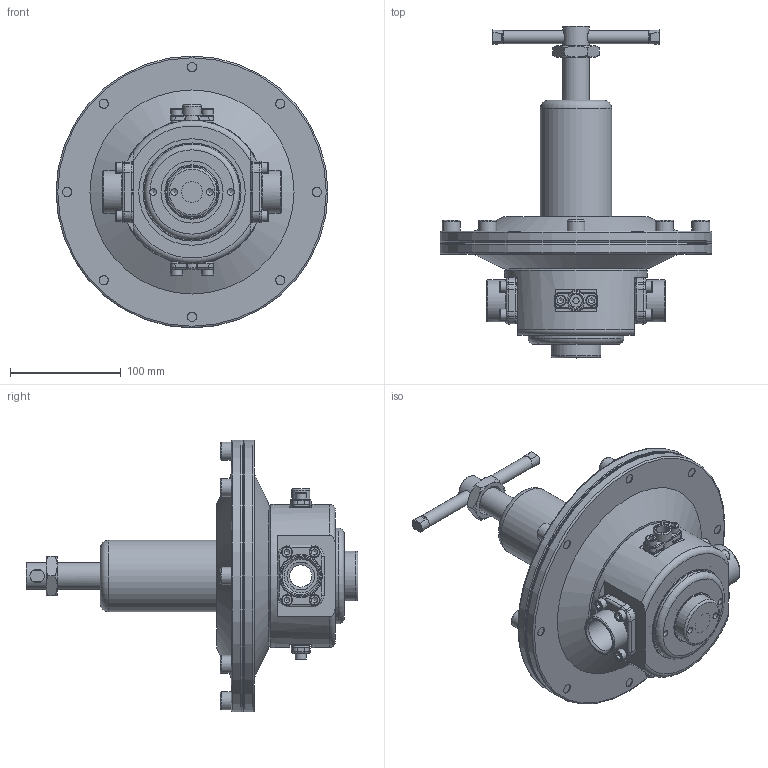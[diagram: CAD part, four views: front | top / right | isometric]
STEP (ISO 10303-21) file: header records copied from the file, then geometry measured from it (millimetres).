
FILE_DESCRIPTION(/* description */ ('Regolatore 210R3'),/* implementation_level */ '2;1');
FILE_NAME(/* name */ 'I:\TEC\Lavoro\ARCHIVIO DISEGNI INVENTOR\WorkSpace\Schizzi\Francesco\1 - AIRCOM MERDA\STEP PER aircomerda\210R3# 10 1.2bar.stp',/* time_stamp */ '2023-04-20T08:05:32+02:00',/* author */ ('FrancescoLazio'),/* organization */ (''),/* preprocessor_version */ 'ST-DEVELOPER v19',/* originating_system */ 'Autodesk Inventor 2023',/* authorisation */ '');
FILE_SCHEMA (('AUTOMOTIVE_DESIGN { 1 0 10303 214 3 1 1 }'));
Length unit declared in the file: millimetre
Products named in the file (45): C81019; P20697; OR 07021; P37129; P37131; P34186; 0DM10600; P23081; P23078; P44057; P64035; P64036; P43162; P43162_1; P43162_2; P43162_3; P43162_4; P43162_5; OR 07032; OR 07032_1; OR 07032_2; OR 07032_3; OR 07032_4; OR 07032_5; OR 16117; OR 15121; 0DC10612; P37083; 0DC10410; OR 07075; P43079; C43007; C43007_1; 0DNH1500; P24082; P32023; P31004; P41131; C22126; P22097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
Assembly tree (65 placements, depth 3):
  C81019
    P20697
    OR 07021  x2
    0DC10410  x12
    P37129
    P37131
    P34186
    0DM10600
    P23081
    P23078
    P44057
    P64035
    P64036
    P43162
    P43162_1
    P43162_2
    P43162_3
    P43162_4
    P43162_5
    OR 07032
    OR 07032_1
    OR 07032_2
    OR 07032_3
    OR 07032_4
    OR 07032_5
    OR 16117
    OR 15121
    0DC10612  x8
    P37083  x2
    OR 07075  x2
    P43079
    C43007
      C43007_1
      0DNH1500
    P24082
    P32023
    P31004
    P41131
    C22126
      P22097
      P42032
      OR 13043
    P34199
    OR 13096
    P24072
Bounding box: 245 x 299.2 x 245 mm (x, y, z)
Volume: 1064769.6 mm3; surface area: 444893.9 mm2
Topology: 45 solids, 45 shells, 890 faces, 2174 edges, 1391 vertices
Faces by surface type: plane 307, cylinder 230, cone 154, torus 147, bspline 52
Full cylindrical faces by diameter (mm): 4.917 x12, 5.6 x1, 6 x16, 6.5 x14, 7.7 x2, 8.376 x14, 8.566 x1, 10 x26, 10.5 x24, 11.2 x2, 11.445 x1, 12 x1, 12.3 x1, 16 x8, 16.5 x1, 20 x1, 22 x1, 23 x1, 24 x2, 25 x1, 30.291 x2, 34.6 x2, 38 x2, 38.5 x2, 45 x1, 48.5 x1, 60 x2, 62.5 x1, 64 x1, 64.5 x2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
Entity records: 21428 total; most frequent: CARTESIAN_POINT 6453, DIRECTION 2991, ORIENTED_EDGE 2652, EDGE_CURVE 1326, AXIS2_PLACEMENT_3D 1304, VERTEX_POINT 849, EDGE_LOOP 701, CIRCLE 672
